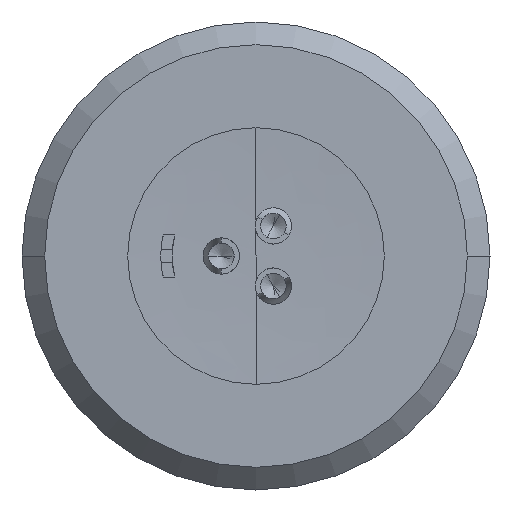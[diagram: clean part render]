
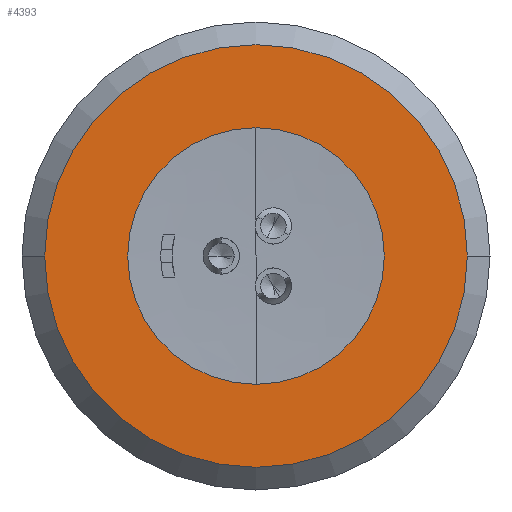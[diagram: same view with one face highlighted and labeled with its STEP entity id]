
A CAD part, left-side view. The second image highlights one B-rep face of the part: STEP entity #4393.
In plain terms, the highlighted planar face has unit normal (-1, 0, 0).
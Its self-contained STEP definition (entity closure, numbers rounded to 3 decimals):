
#932=CARTESIAN_POINT('',(-15.5,0.,0.));
#933=DIRECTION('',(1.,0.,0.));
#934=DIRECTION('',(0.,-1.,0.));
#935=AXIS2_PLACEMENT_3D('',#932,#933,#934);
#937=CARTESIAN_POINT('',(-15.5,0.,0.));
#938=DIRECTION('',(1.,0.,0.));
#939=DIRECTION('',(0.,0.,-1.));
#940=AXIS2_PLACEMENT_3D('',#937,#938,#939);
#942=CARTESIAN_POINT('',(-15.5,0.,0.));
#943=DIRECTION('',(1.,0.,0.));
#944=DIRECTION('',(0.,1.,0.));
#945=AXIS2_PLACEMENT_3D('',#942,#943,#944);
#947=CARTESIAN_POINT('',(-15.5,0.,0.));
#948=DIRECTION('',(1.,0.,0.));
#949=DIRECTION('',(0.,0.,1.));
#950=AXIS2_PLACEMENT_3D('',#947,#948,#949);
#952=CARTESIAN_POINT('',(-15.5,0.,0.));
#953=DIRECTION('',(-1.,0.,0.));
#954=DIRECTION('',(0.,-1.,0.));
#955=AXIS2_PLACEMENT_3D('',#952,#953,#954);
#957=CARTESIAN_POINT('',(-15.5,0.,0.));
#958=DIRECTION('',(-1.,0.,0.));
#959=DIRECTION('',(0.,1.,0.));
#960=AXIS2_PLACEMENT_3D('',#957,#958,#959);
#2611=CARTESIAN_POINT('',(-15.5,0.,7.));
#2612=CARTESIAN_POINT('',(-15.5,-7.,0.));
#2613=VERTEX_POINT('',#2611);
#2614=VERTEX_POINT('',#2612);
#2615=CARTESIAN_POINT('',(-15.5,7.,0.));
#2616=VERTEX_POINT('',#2615);
#2617=CARTESIAN_POINT('',(-15.5,0.,-7.));
#2618=VERTEX_POINT('',#2617);
#2619=CARTESIAN_POINT('',(-15.5,-4.25,0.));
#2620=CARTESIAN_POINT('',(-15.5,4.25,0.));
#2621=VERTEX_POINT('',#2619);
#2622=VERTEX_POINT('',#2620);
#4374=CARTESIAN_POINT('',(-15.5,0.,0.));
#4375=DIRECTION('',(1.,0.,0.));
#4376=DIRECTION('',(0.,-1.,0.));
#4377=AXIS2_PLACEMENT_3D('',#4374,#4375,#4376);
#4378=PLANE('',#4377);
#4380=ORIENTED_EDGE('',*,*,#4379,.T.);
#4382=ORIENTED_EDGE('',*,*,#4381,.T.);
#4383=ORIENTED_EDGE('',*,*,#4356,.T.);
#4384=ORIENTED_EDGE('',*,*,#4354,.T.);
#4385=EDGE_LOOP('',(#4380,#4382,#4383,#4384));
#4386=FACE_OUTER_BOUND('',#4385,.F.);
#4388=ORIENTED_EDGE('',*,*,#4387,.T.);
#4390=ORIENTED_EDGE('',*,*,#4389,.T.);
#4391=EDGE_LOOP('',(#4388,#4390));
#4392=FACE_BOUND('',#4391,.F.);
#936=CIRCLE('',#935,7.);
#941=CIRCLE('',#940,7.);
#946=CIRCLE('',#945,7.);
#951=CIRCLE('',#950,7.);
#956=CIRCLE('',#955,4.25);
#961=CIRCLE('',#960,4.25);
#4354=EDGE_CURVE('',#2613,#2614,#951,.T.);
#4356=EDGE_CURVE('',#2616,#2613,#946,.T.);
#4379=EDGE_CURVE('',#2614,#2618,#936,.T.);
#4381=EDGE_CURVE('',#2618,#2616,#941,.T.);
#4387=EDGE_CURVE('',#2621,#2622,#956,.T.);
#4389=EDGE_CURVE('',#2622,#2621,#961,.T.);
#4393=ADVANCED_FACE('',(#4386,#4392),#4378,.F.);
